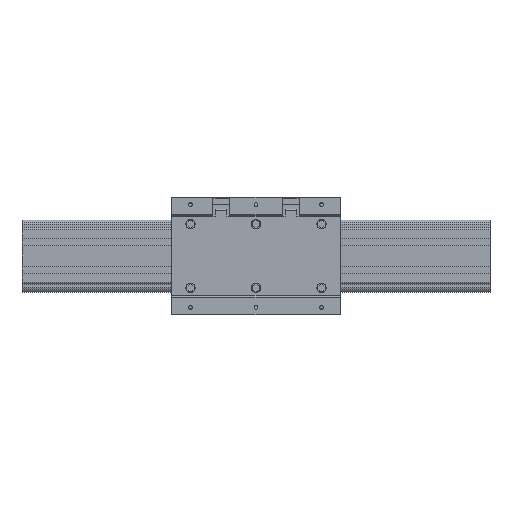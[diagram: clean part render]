
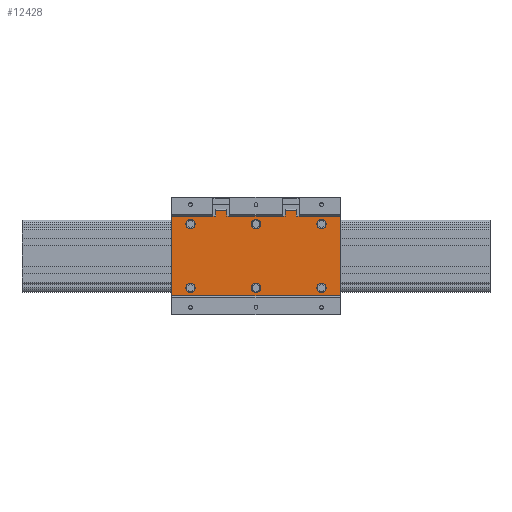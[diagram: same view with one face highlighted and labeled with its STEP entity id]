
A CAD part, top view. The second image highlights one B-rep face of the part: STEP entity #12428.
In plain terms, the highlighted planar face has unit normal (0, 0, 1).
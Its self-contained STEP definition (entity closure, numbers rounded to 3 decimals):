
#6614=CARTESIAN_POINT('',(155.0,-34.0,22.));
#6615=VERTEX_POINT('',#6614);
#6616=CARTESIAN_POINT('',(160.0,-34.0,22.));
#6617=DIRECTION('',(0.0,0.0,-1.0));
#6618=DIRECTION('',(-1.0,0.0,0.0));
#6619=AXIS2_PLACEMENT_3D('',#6616,#6617,#6618);
#6620=CIRCLE('',#6619,5.);
#6621=EDGE_CURVE('',#6615,#6615,#6620,.T.);
#6710=CARTESIAN_POINT('',(85.0,-34.0,22.));
#6711=VERTEX_POINT('',#6710);
#6712=CARTESIAN_POINT('',(90.0,-34.0,22.));
#6713=DIRECTION('',(0.0,0.0,-1.0));
#6714=DIRECTION('',(-1.0,0.0,0.0));
#6715=AXIS2_PLACEMENT_3D('',#6712,#6713,#6714);
#6716=CIRCLE('',#6715,5.);
#6717=EDGE_CURVE('',#6711,#6711,#6716,.T.);
#6806=CARTESIAN_POINT('',(15.0,-34.0,22.));
#6807=VERTEX_POINT('',#6806);
#6808=CARTESIAN_POINT('',(20.0,-34.0,22.));
#6809=DIRECTION('',(0.0,0.0,-1.0));
#6810=DIRECTION('',(-1.0,0.0,0.0));
#6811=AXIS2_PLACEMENT_3D('',#6808,#6809,#6810);
#6812=CIRCLE('',#6811,5.);
#6813=EDGE_CURVE('',#6807,#6807,#6812,.T.);
#6902=CARTESIAN_POINT('',(155.0,34.0,22.));
#6903=VERTEX_POINT('',#6902);
#6904=CARTESIAN_POINT('',(160.0,34.0,22.));
#6905=DIRECTION('',(0.0,0.0,-1.0));
#6906=DIRECTION('',(-1.0,0.0,0.0));
#6907=AXIS2_PLACEMENT_3D('',#6904,#6905,#6906);
#6908=CIRCLE('',#6907,5.);
#6909=EDGE_CURVE('',#6903,#6903,#6908,.T.);
#6998=CARTESIAN_POINT('',(85.0,34.0,22.));
#6999=VERTEX_POINT('',#6998);
#7000=CARTESIAN_POINT('',(90.0,34.0,22.));
#7001=DIRECTION('',(0.0,0.0,-1.0));
#7002=DIRECTION('',(-1.0,0.0,0.0));
#7003=AXIS2_PLACEMENT_3D('',#7000,#7001,#7002);
#7004=CIRCLE('',#7003,5.);
#7005=EDGE_CURVE('',#6999,#6999,#7004,.T.);
#7280=CARTESIAN_POINT('',(15.0,34.0,22.));
#7281=VERTEX_POINT('',#7280);
#7282=CARTESIAN_POINT('',(20.,34.0,22.));
#7283=DIRECTION('',(0.0,0.0,-1.0));
#7284=DIRECTION('',(-1.0,0.0,0.0));
#7285=AXIS2_PLACEMENT_3D('',#7282,#7283,#7284);
#7286=CIRCLE('',#7285,5.);
#7287=EDGE_CURVE('',#7281,#7281,#7286,.T.);
#10848=CARTESIAN_POINT('',(121.,42.7,22.));
#10849=VERTEX_POINT('',#10848);
#10856=CARTESIAN_POINT('',(121.,49.,22.));
#10857=VERTEX_POINT('',#10856);
#10858=CARTESIAN_POINT('',(121.,49.,22.));
#10859=DIRECTION('',(0.0,-1.0,0.0));
#10860=VECTOR('',#10859,6.3);
#10861=LINE('',#10858,#10860);
#10862=EDGE_CURVE('',#10857,#10849,#10861,.T.);
#10912=CARTESIAN_POINT('',(133.0,49.,22.));
#10913=VERTEX_POINT('',#10912);
#10930=CARTESIAN_POINT('',(133.0,49.,22.));
#10931=DIRECTION('',(-1.0,0.0,0.0));
#10932=VECTOR('',#10931,12.);
#10933=LINE('',#10930,#10932);
#10934=EDGE_CURVE('',#10913,#10857,#10933,.T.);
#11041=CARTESIAN_POINT('',(133.0,42.7,22.));
#11042=VERTEX_POINT('',#11041);
#11043=CARTESIAN_POINT('',(133.0,42.7,22.));
#11044=DIRECTION('',(0.0,1.0,0.0));
#11045=VECTOR('',#11044,6.3);
#11046=LINE('',#11043,#11045);
#11047=EDGE_CURVE('',#11042,#10913,#11046,.T.);
#11085=CARTESIAN_POINT('',(118.0,42.7,22.));
#11086=VERTEX_POINT('',#11085);
#11093=CARTESIAN_POINT('',(118.0,42.7,22.));
#11094=DIRECTION('',(1.0,0.0,0.0));
#11095=VECTOR('',#11094,3.);
#11096=LINE('',#11093,#11095);
#11097=EDGE_CURVE('',#11086,#10849,#11096,.T.);
#11108=CARTESIAN_POINT('',(136.0,42.7,22.));
#11109=VERTEX_POINT('',#11108);
#11110=CARTESIAN_POINT('',(133.0,42.7,22.));
#11111=DIRECTION('',(1.0,0.0,0.0));
#11112=VECTOR('',#11111,3.0);
#11113=LINE('',#11110,#11112);
#11114=EDGE_CURVE('',#11042,#11109,#11113,.T.);
#11321=CARTESIAN_POINT('',(180.0,42.7,22.));
#11322=VERTEX_POINT('',#11321);
#11323=CARTESIAN_POINT('',(136.0,42.7,22.));
#11324=DIRECTION('',(1.0,0.0,0.0));
#11325=VECTOR('',#11324,44.0);
#11326=LINE('',#11323,#11325);
#11327=EDGE_CURVE('',#11109,#11322,#11326,.T.);
#11361=CARTESIAN_POINT('',(62.,42.7,22.));
#11362=VERTEX_POINT('',#11361);
#11370=CARTESIAN_POINT('',(62.,42.7,22.));
#11371=DIRECTION('',(1.0,0.0,0.0));
#11372=VECTOR('',#11371,56.);
#11373=LINE('',#11370,#11372);
#11374=EDGE_CURVE('',#11362,#11086,#11373,.T.);
#11871=CARTESIAN_POINT('',(47.0,42.7,22.));
#11872=VERTEX_POINT('',#11871);
#11879=CARTESIAN_POINT('',(47.0,49.,22.));
#11880=VERTEX_POINT('',#11879);
#11881=CARTESIAN_POINT('',(47.0,49.,22.));
#11882=DIRECTION('',(0.0,-1.0,0.0));
#11883=VECTOR('',#11882,6.3);
#11884=LINE('',#11881,#11883);
#11885=EDGE_CURVE('',#11880,#11872,#11884,.T.);
#11935=CARTESIAN_POINT('',(59.0,49.,22.));
#11936=VERTEX_POINT('',#11935);
#11953=CARTESIAN_POINT('',(59.0,49.,22.));
#11954=DIRECTION('',(-1.0,0.0,0.0));
#11955=VECTOR('',#11954,12.0);
#11956=LINE('',#11953,#11955);
#11957=EDGE_CURVE('',#11936,#11880,#11956,.T.);
#12057=CARTESIAN_POINT('',(59.0,42.7,22.));
#12058=VERTEX_POINT('',#12057);
#12059=CARTESIAN_POINT('',(59.0,42.7,22.));
#12060=DIRECTION('',(0.0,1.0,0.0));
#12061=VECTOR('',#12060,6.3);
#12062=LINE('',#12059,#12061);
#12063=EDGE_CURVE('',#12058,#11936,#12062,.T.);
#12087=CARTESIAN_POINT('',(44.,42.7,22.));
#12088=VERTEX_POINT('',#12087);
#12095=CARTESIAN_POINT('',(44.,42.7,22.));
#12096=DIRECTION('',(1.0,0.0,0.0));
#12097=VECTOR('',#12096,3.);
#12098=LINE('',#12095,#12097);
#12099=EDGE_CURVE('',#12088,#11872,#12098,.T.);
#12110=CARTESIAN_POINT('',(59.0,42.7,22.));
#12111=DIRECTION('',(1.0,0.0,0.0));
#12112=VECTOR('',#12111,3.);
#12113=LINE('',#12110,#12112);
#12114=EDGE_CURVE('',#12058,#11362,#12113,.T.);
#12342=CARTESIAN_POINT('',(180.0,-42.7,22.));
#12343=VERTEX_POINT('',#12342);
#12351=CARTESIAN_POINT('',(0.0,-42.7,22.));
#12352=VERTEX_POINT('',#12351);
#12353=CARTESIAN_POINT('',(0.0,-42.7,22.));
#12354=DIRECTION('',(1.0,0.0,0.0));
#12355=VECTOR('',#12354,180.0);
#12356=LINE('',#12353,#12355);
#12357=EDGE_CURVE('',#12352,#12343,#12356,.T.);
#12370=CARTESIAN_POINT('',(0.0,-42.7,22.));
#12371=DIRECTION('',(0.0,0.0,1.0));
#12372=DIRECTION('',(1.0,0.0,0.0));
#12373=AXIS2_PLACEMENT_3D('',#12370,#12371,#12372);
#12374=PLANE('',#12373);
#12375=CARTESIAN_POINT('',(180.0,-42.7,22.));
#12376=DIRECTION('',(0.0,1.0,0.0));
#12377=VECTOR('',#12376,85.4);
#12378=LINE('',#12375,#12377);
#12379=EDGE_CURVE('',#12343,#11322,#12378,.T.);
#12380=ORIENTED_EDGE('',*,*,#12379,.T.);
#12381=ORIENTED_EDGE('',*,*,#11327,.F.);
#12382=ORIENTED_EDGE('',*,*,#11114,.F.);
#12383=ORIENTED_EDGE('',*,*,#11047,.T.);
#12384=ORIENTED_EDGE('',*,*,#10934,.T.);
#12385=ORIENTED_EDGE('',*,*,#10862,.T.);
#12386=ORIENTED_EDGE('',*,*,#11097,.F.);
#12387=ORIENTED_EDGE('',*,*,#11374,.F.);
#12388=ORIENTED_EDGE('',*,*,#12114,.F.);
#12389=ORIENTED_EDGE('',*,*,#12063,.T.);
#12390=ORIENTED_EDGE('',*,*,#11957,.T.);
#12391=ORIENTED_EDGE('',*,*,#11885,.T.);
#12392=ORIENTED_EDGE('',*,*,#12099,.F.);
#12393=CARTESIAN_POINT('',(0.0,42.7,22.));
#12394=VERTEX_POINT('',#12393);
#12395=CARTESIAN_POINT('',(0.0,42.7,22.));
#12396=DIRECTION('',(1.0,0.0,0.0));
#12397=VECTOR('',#12396,44.);
#12398=LINE('',#12395,#12397);
#12399=EDGE_CURVE('',#12394,#12088,#12398,.T.);
#12400=ORIENTED_EDGE('',*,*,#12399,.F.);
#12401=CARTESIAN_POINT('',(0.0,42.7,22.));
#12402=DIRECTION('',(0.0,-1.0,0.0));
#12403=VECTOR('',#12402,85.4);
#12404=LINE('',#12401,#12403);
#12405=EDGE_CURVE('',#12394,#12352,#12404,.T.);
#12406=ORIENTED_EDGE('',*,*,#12405,.T.);
#12407=ORIENTED_EDGE('',*,*,#12357,.T.);
#12408=EDGE_LOOP('',(#12380,#12381,#12382,#12383,#12384,#12385,#12386,#12387,#12388,#12389,#12390,#12391,#12392,#12400,#12406,#12407));
#12409=FACE_OUTER_BOUND('',#12408,.T.);
#12410=ORIENTED_EDGE('',*,*,#6621,.T.);
#12411=EDGE_LOOP('',(#12410));
#12412=FACE_BOUND('',#12411,.T.);
#12413=ORIENTED_EDGE('',*,*,#6717,.T.);
#12414=EDGE_LOOP('',(#12413));
#12415=FACE_BOUND('',#12414,.T.);
#12416=ORIENTED_EDGE('',*,*,#6813,.T.);
#12417=EDGE_LOOP('',(#12416));
#12418=FACE_BOUND('',#12417,.T.);
#12419=ORIENTED_EDGE('',*,*,#6909,.T.);
#12420=EDGE_LOOP('',(#12419));
#12421=FACE_BOUND('',#12420,.T.);
#12422=ORIENTED_EDGE('',*,*,#7005,.T.);
#12423=EDGE_LOOP('',(#12422));
#12424=FACE_BOUND('',#12423,.T.);
#12425=ORIENTED_EDGE('',*,*,#7287,.T.);
#12426=EDGE_LOOP('',(#12425));
#12427=FACE_BOUND('',#12426,.T.);
#12428=ADVANCED_FACE('',(#12409,#12412,#12415,#12418,#12421,#12424,#12427),#12374,.T.);
